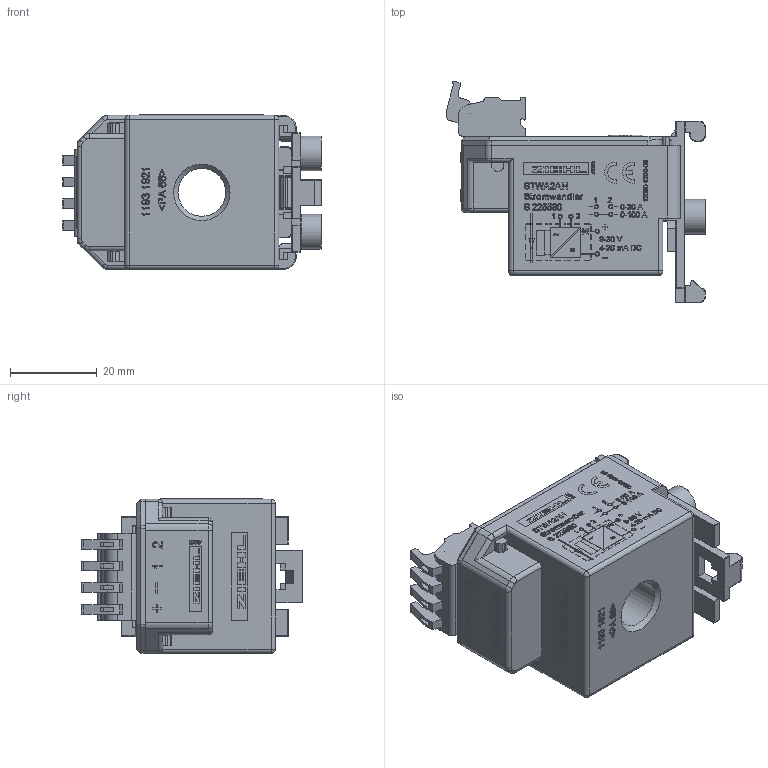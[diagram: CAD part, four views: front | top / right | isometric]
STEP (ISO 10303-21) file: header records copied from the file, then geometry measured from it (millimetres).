
FILE_DESCRIPTION (( 'STEP AP214' ), '1' );
FILE_NAME ('12080-1901-00_3D_STWA2AH.STEP', '2014-09-10T08:05:46', ( '' ), ( '' ), 'SwSTEP 2.0', 'SolidWorks 2014', '' );
FILE_SCHEMA (( 'AUTOMOTIVE_DESIGN' ));
Length unit declared in the file: millimetre
Products named in the file (8): 1193 1970_3D_Deckel; H_3D_Unterteil mit Vergussmasse; 12080-1901-00_3D_STWA2AH; 12080-1200-00 STWA2AH_3D; 12080-1203-00_2AH +-_ 3D; ASP045 4-polig; 31177104 Stiftleiste 4-polig; 1193 1980_3D_Halter
Assembly tree (7 placements, depth 2):
  12080-1901-00_3D_STWA2AH
    H_3D_Unterteil mit Vergussmasse
    1193 1970_3D_Deckel
    1193 1980_3D_Halter
    31177104 Stiftleiste 4-polig
    ASP045 4-polig
    12080-1203-00_2AH +-_ 3D
    12080-1200-00 STWA2AH_3D
Bounding box: 59.64 x 50.98 x 35.67 mm (x, y, z)
Volume: 19810.3 mm3; surface area: 27898.1 mm2
Topology: 140 solids, 153 shells, 2438 faces, 6067 edges, 3937 vertices
Faces by surface type: plane 1707, bspline 355, cylinder 299, torus 48, sphere 24, cone 5
Full cylindrical faces by diameter (mm): 0.05 x1, 1.6 x4, 4.4 x2, 6.5 x1, 7.5 x1, 8 x2, 11 x2, 12 x1, 15 x1
Entity records: 86767 total; most frequent: CARTESIAN_POINT 28009, ORIENTED_EDGE 11926, DIRECTION 9964, EDGE_CURVE 5995, LINE 4626, VECTOR 4626, VERTEX_POINT 3926, AXIS2_PLACEMENT_3D 2669
